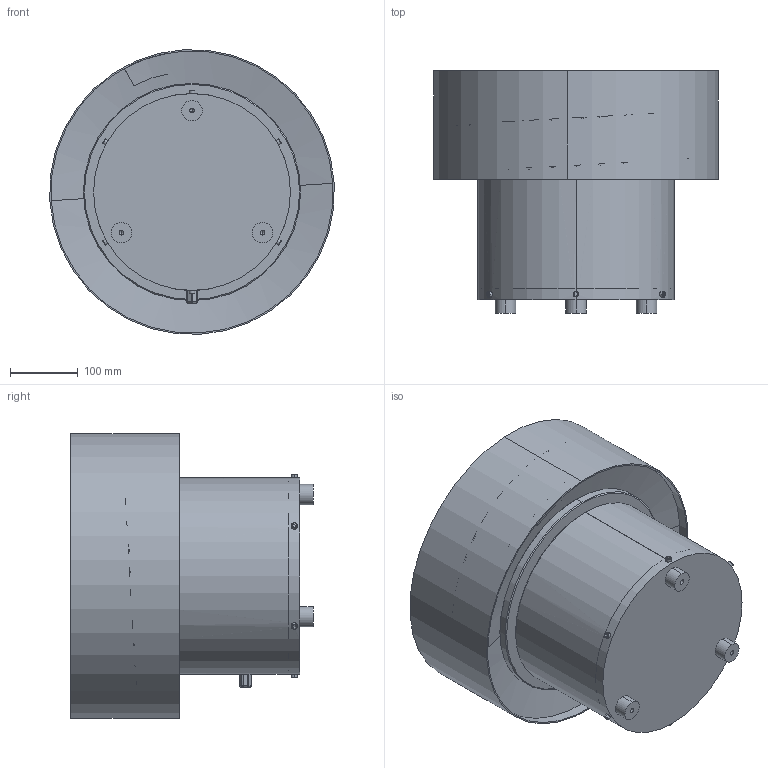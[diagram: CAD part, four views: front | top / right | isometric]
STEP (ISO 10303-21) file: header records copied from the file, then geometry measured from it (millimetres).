
FILE_DESCRIPTION (( 'STEP AP214' ), '1' );
FILE_NAME ('PW360_Q420x160_LEWY_WIBRAMET.STEP', '2020-10-27T11:04:58', ( '' ), ( '' ), 'SwSTEP 2.0', 'SolidWorks 2017', '' );
FILE_SCHEMA (( 'AUTOMOTIVE_DESIGN' ));
Length unit declared in the file: millimetre
Products named in the file (5): PW360-00.22[Podk³adka]; socket head cap screw_iso_ISO 4762 M12 x 40 - 40N; Q420x160L-70-30; PW360_Q420x160_LEWY_WIBRAMET; PW360_WIBRAMET
Assembly tree (4 placements, depth 2):
  PW360_Q420x160_LEWY_WIBRAMET
    PW360_WIBRAMET
    Q420x160L-70-30
    PW360-00.22[Podk³adka]
    socket head cap screw_iso_ISO 4762 M12 x 40 - 40N
Bounding box: 419.22 x 357.27 x 419.22 mm (x, y, z)
Volume: 6518511.6 mm3; surface area: 1528234.3 mm2
Topology: 5 solids, 5 shells, 223 faces, 522 edges, 320 vertices
Faces by surface type: plane 101, cylinder 72, cone 24, torus 16, bspline 10
Entity records: 8578 total; most frequent: CARTESIAN_POINT 2913, DIRECTION 1054, ORIENTED_EDGE 1016, EDGE_CURVE 508, AXIS2_PLACEMENT_3D 382, VERTEX_POINT 320, VECTOR 290, LINE 290
